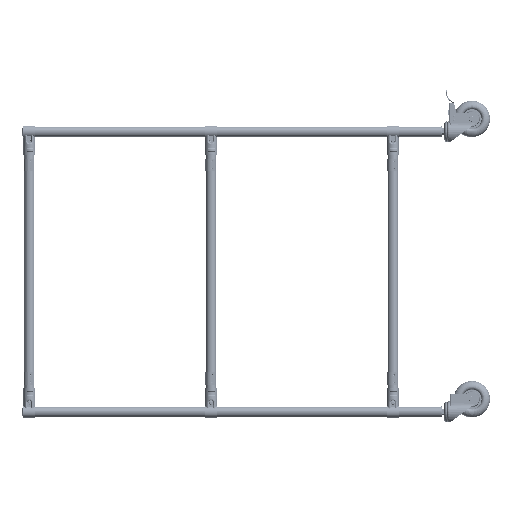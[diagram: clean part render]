
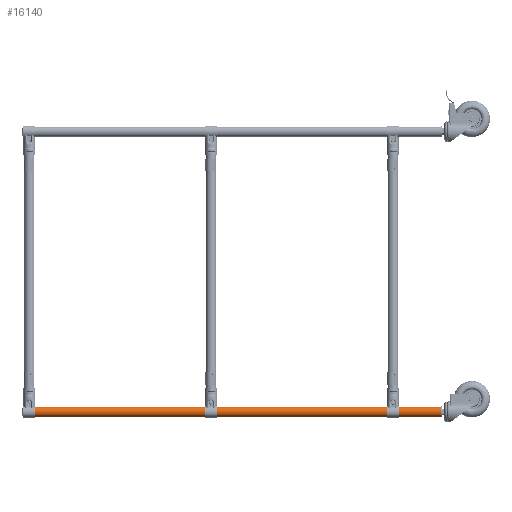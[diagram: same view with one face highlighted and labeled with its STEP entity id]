
A CAD part, left-side view. The second image highlights one B-rep face of the part: STEP entity #16140.
In plain terms, the highlighted cylindrical face has radius 14 mm (diameter 28 mm), a partial arc.
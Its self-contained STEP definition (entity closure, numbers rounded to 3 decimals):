
#8816 = DIRECTION ( 'NONE',  ( 0., 0., -1. ) ) ;
#12551 = EDGE_LOOP ( 'NONE', ( #82391, #55533, #37419, #39480 ) ) ;
#16140 = ADVANCED_FACE ( 'NONE', ( #61784 ), #35117, .T. ) ;
#19872 = AXIS2_PLACEMENT_3D ( 'NONE', #58188, #83672, #24631 ) ;
#22579 = CARTESIAN_POINT ( 'NONE',  ( 0., 0., 575. ) ) ;
#24631 = DIRECTION ( 'NONE',  ( 1., 0., 0. ) ) ;
#29141 = CARTESIAN_POINT ( 'NONE',  ( -14., 0., -575. ) ) ;
#30311 = VECTOR ( 'NONE', #35642, 1000. ) ;
#30957 = DIRECTION ( 'NONE',  ( 1., 0., 0. ) ) ;
#33299 = CARTESIAN_POINT ( 'NONE',  ( -14., 0., 575. ) ) ;
#33756 = VERTEX_POINT ( 'NONE', #29141 ) ;
#35093 = CIRCLE ( 'NONE', #19872, 14. ) ;
#35117 = CYLINDRICAL_SURFACE ( 'NONE', #76771, 14. ) ;
#35642 = DIRECTION ( 'NONE',  ( 0., 0., -1. ) ) ;
#37419 = ORIENTED_EDGE ( 'NONE', *, *, #81912, .T. ) ;
#37435 = CARTESIAN_POINT ( 'NONE',  ( 0., 0., -575. ) ) ;
#38683 = CARTESIAN_POINT ( 'NONE',  ( -14., 0., 575. ) ) ;
#39480 = ORIENTED_EDGE ( 'NONE', *, *, #52104, .F. ) ;
#41122 = CARTESIAN_POINT ( 'NONE',  ( 14., 0., 575. ) ) ;
#42104 = LINE ( 'NONE', #62694, #30311 ) ;
#44914 = CIRCLE ( 'NONE', #82068, 14. ) ;
#48465 = DIRECTION ( 'NONE',  ( -1., 0., 0. ) ) ;
#52047 = VECTOR ( 'NONE', #79821, 1000. ) ;
#52104 = EDGE_CURVE ( 'NONE', #63987, #33756, #73319, .T. ) ;
#55533 = ORIENTED_EDGE ( 'NONE', *, *, #57355, .T. ) ;
#57355 = EDGE_CURVE ( 'NONE', #72860, #74910, #42104, .T. ) ;
#58188 = CARTESIAN_POINT ( 'NONE',  ( 0., 0., 575. ) ) ;
#61784 = FACE_OUTER_BOUND ( 'NONE', #12551, .T. ) ;
#62694 = CARTESIAN_POINT ( 'NONE',  ( 14., 0., 575. ) ) ;
#63664 = DIRECTION ( 'NONE',  ( 0., 0., 1. ) ) ;
#63987 = VERTEX_POINT ( 'NONE', #38683 ) ;
#72860 = VERTEX_POINT ( 'NONE', #41122 ) ;
#73319 = LINE ( 'NONE', #33299, #52047 ) ;
#74910 = VERTEX_POINT ( 'NONE', #83810 ) ;
#76771 = AXIS2_PLACEMENT_3D ( 'NONE', #22579, #8816, #48465 ) ;
#79101 = EDGE_CURVE ( 'NONE', #72860, #63987, #35093, .T. ) ;
#79821 = DIRECTION ( 'NONE',  ( 0., 0., -1. ) ) ;
#81912 = EDGE_CURVE ( 'NONE', #74910, #33756, #44914, .T. ) ;
#82068 = AXIS2_PLACEMENT_3D ( 'NONE', #37435, #63664, #30957 ) ;
#82391 = ORIENTED_EDGE ( 'NONE', *, *, #79101, .F. ) ;
#83672 = DIRECTION ( 'NONE',  ( 0., 0., 1. ) ) ;
#83810 = CARTESIAN_POINT ( 'NONE',  ( 14., 0., -575. ) ) ;
